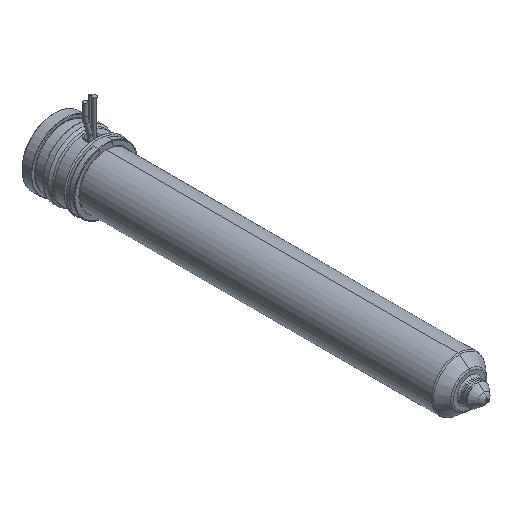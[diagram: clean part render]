
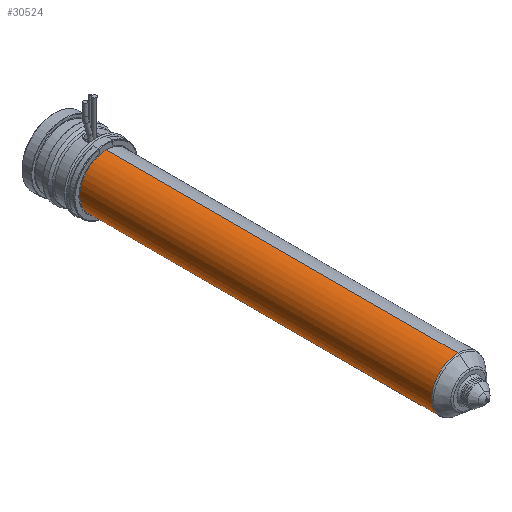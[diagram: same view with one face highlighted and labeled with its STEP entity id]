
A CAD part, isometric view. The second image highlights one B-rep face of the part: STEP entity #30524.
In plain terms, the highlighted cylindrical face has radius 12 mm (diameter 24 mm), a partial arc.
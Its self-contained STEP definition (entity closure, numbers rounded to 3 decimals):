
#29915=CARTESIAN_POINT('',(0.,-183.736,0.));
#29916=DIRECTION('',(0.,-1.,0.));
#29917=DIRECTION('',(0.,0.,1.));
#29918=AXIS2_PLACEMENT_3D('',#29915,#29916,#29917);
#29923=CARTESIAN_POINT('',(0.,-24.,0.));
#29924=DIRECTION('',(0.,1.,0.));
#29925=DIRECTION('',(0.,0.,-1.));
#29926=AXIS2_PLACEMENT_3D('',#29923,#29924,#29925);
#29931=DIRECTION('',(0.,1.,0.));
#29932=VECTOR('',#29931,159.736);
#29933=CARTESIAN_POINT('',(0.,-183.736,12.));
#29934=LINE('',#29933,#29932);
#29946=DIRECTION('',(0.,1.,0.));
#29947=VECTOR('',#29946,159.736);
#29948=CARTESIAN_POINT('',(0.,-183.736,-12.));
#29949=LINE('',#29948,#29947);
#30129=CARTESIAN_POINT('',(0.,-183.736,12.));
#30130=CARTESIAN_POINT('',(0.,-24.,12.));
#30131=VERTEX_POINT('',#30129);
#30132=VERTEX_POINT('',#30130);
#30133=CARTESIAN_POINT('',(0.,-183.736,-12.));
#30134=CARTESIAN_POINT('',(0.,-24.,-12.));
#30135=VERTEX_POINT('',#30133);
#30136=VERTEX_POINT('',#30134);
#30510=CARTESIAN_POINT('',(0.,-11.125,0.));
#30511=DIRECTION('',(0.,-1.,0.));
#30512=DIRECTION('',(0.,0.,1.));
#30513=AXIS2_PLACEMENT_3D('',#30510,#30511,#30512);
#30514=CYLINDRICAL_SURFACE('',#30513,12.);
#30516=ORIENTED_EDGE('',*,*,#30515,.F.);
#30517=ORIENTED_EDGE('',*,*,#30505,.T.);
#30519=ORIENTED_EDGE('',*,*,#30518,.T.);
#30521=ORIENTED_EDGE('',*,*,#30520,.T.);
#30522=EDGE_LOOP('',(#30516,#30517,#30519,#30521));
#30523=FACE_OUTER_BOUND('',#30522,.F.);
#30524=ADVANCED_FACE('',(#30523),#30514,.T.);
#29919=CIRCLE('',#29918,12.);
#29927=CIRCLE('',#29926,12.);
#30505=EDGE_CURVE('',#30131,#30135,#29919,.T.);
#30515=EDGE_CURVE('',#30131,#30132,#29934,.T.);
#30518=EDGE_CURVE('',#30135,#30136,#29949,.T.);
#30520=EDGE_CURVE('',#30136,#30132,#29927,.T.);
